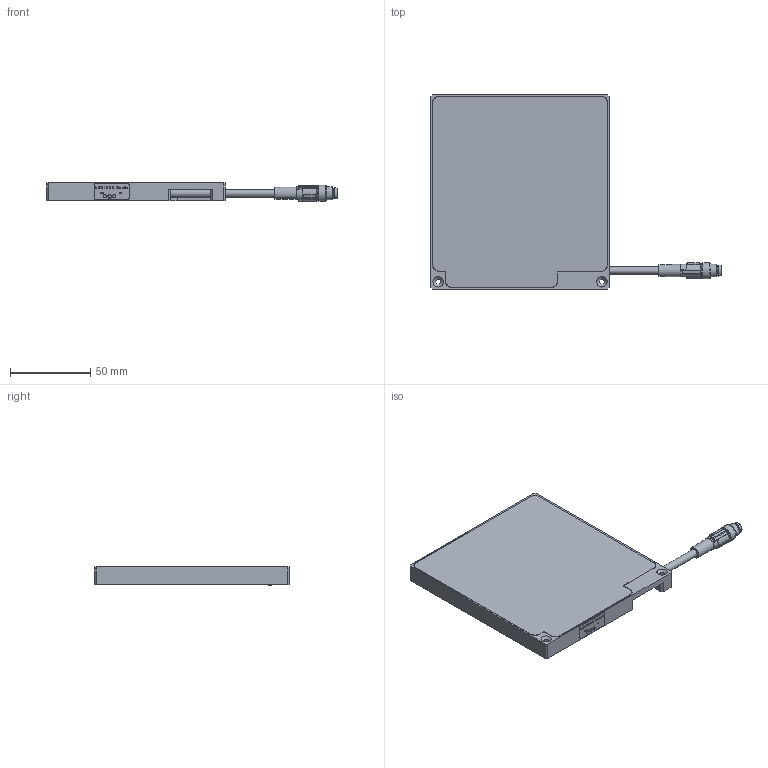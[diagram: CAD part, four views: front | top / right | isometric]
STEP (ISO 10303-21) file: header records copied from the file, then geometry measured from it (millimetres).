
FILE_DESCRIPTION(/* description */ ('Unknown','CAx-IF Rec.Pracs.---Representation and Presentation of Product Manufacturing Information (PMI)---4.0---2014-10-13','CAx-IF Rec.Pracs.---3D Tessellated Geometry---0.4---2014-09-14','2;1'),/* implementation_level */ '2;1');
FILE_NAME(/* name */ '10X.0070_BF100x100',/* time_stamp */ '2021-01-20T08:07:45+01:00',/* author */ ('AW'),/* organization */ ('iiM AG'),/* preprocessor_version */ 'ST-DEVELOPER v16.7',/* originating_system */ 'DEX',/* authorisation */ $);
FILE_SCHEMA (('AP242_MANAGED_MODEL_BASED_3D_ENGINEERING_MIM_LF { 1 0 10303 442 1 1 4 }'));
Length unit declared in the file: millimetre
Products named in the file (1): BF100x100
Bounding box: 180.7 x 121.15 x 11.6 mm (x, y, z)
Volume: 72819.4 mm3; surface area: 66471.5 mm2
Topology: 2 solids, 2 shells, 362 faces, 921 edges, 612 vertices
Faces by surface type: plane 260, cylinder 78, bspline 19, cone 5
Full cylindrical faces by diameter (mm): 1 x4, 2 x4, 3.242 x4, 4.7 x3, 5.7 x1, 6.35 x1, 8 x2, 9 x1, 9.3 x2, 10 x1
Entity records: 14671 total; most frequent: CARTESIAN_POINT 3743, ORIENTED_EDGE 1762, DIRECTION 1668, EDGE_CURVE 881, LINE 664, VECTOR 664, VERTEX_POINT 603, AXIS2_PLACEMENT_3D 502
